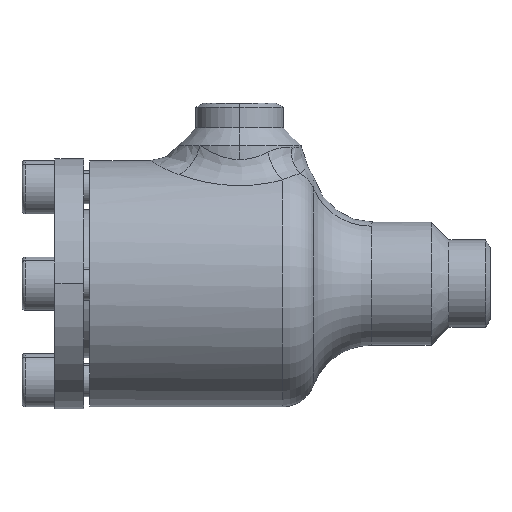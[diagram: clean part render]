
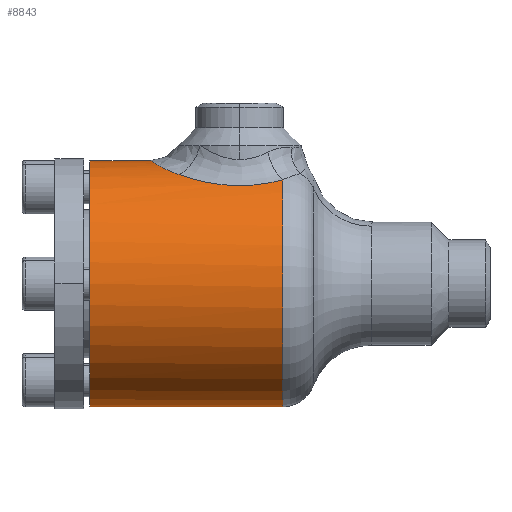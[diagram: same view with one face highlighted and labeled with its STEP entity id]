
A CAD part, left-side view. The second image highlights one B-rep face of the part: STEP entity #8843.
In plain terms, the highlighted cylindrical face has radius 30 mm (diameter 60 mm), a partial arc.
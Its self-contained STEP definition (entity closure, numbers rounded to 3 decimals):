
#235 = VERTEX_POINT ( 'NONE', #5533 ) ;
#1103 = VERTEX_POINT ( 'NONE', #6805 ) ;
#1304 = EDGE_CURVE ( 'NONE', #5345, #1103, #9675, .T. ) ;
#1637 = ORIENTED_EDGE ( 'NONE', *, *, #1304, .T. ) ;
#2572 = ORIENTED_EDGE ( 'NONE', *, *, #4884, .F. ) ;
#2688 = VERTEX_POINT ( 'NONE', #4984 ) ;
#4350 = CIRCLE ( 'NONE', #4351, 30. ) ;
#4351 = AXIS2_PLACEMENT_3D ( 'NONE', #4352, #4353, #4354 ) ;
#4352 = CARTESIAN_POINT ( 'NONE',  ( 0., 0., 0. ) ) ;
#4353 = DIRECTION ( 'NONE',  ( 0., 1., 0. ) ) ;
#4354 = DIRECTION ( 'NONE',  ( 0., 0., 1. ) ) ;
#4884 = EDGE_CURVE ( 'NONE', #9738, #235, #6260, .T. ) ;
#4984 = CARTESIAN_POINT ( 'NONE',  ( 0., 0., 30. ) ) ;
#5300 = EDGE_CURVE ( 'NONE', #11689, #2688, #6395, .T. ) ;
#5345 = VERTEX_POINT ( 'NONE', #9883 ) ;
#5357 = EDGE_CURVE ( 'NONE', #9738, #5345, #11694, .T. ) ;
#5370 = ORIENTED_EDGE ( 'NONE', *, *, #5357, .T. ) ;
#5384 = ORIENTED_EDGE ( 'NONE', *, *, #5300, .T. ) ;
#5410 = EDGE_CURVE ( 'NONE', #1103, #11689, #6240, .T. ) ;
#5424 = ORIENTED_EDGE ( 'NONE', *, *, #5410, .T. ) ;
#5533 = CARTESIAN_POINT ( 'NONE',  ( 0., 0., -30. ) ) ;
#6219 = FACE_OUTER_BOUND ( 'NONE', #8728, .T. ) ;
#6220 = CYLINDRICAL_SURFACE ( 'NONE', #6221, 30. ) ;
#6221 = AXIS2_PLACEMENT_3D ( 'NONE', #6222, #6223, #6224 ) ;
#6222 = CARTESIAN_POINT ( 'NONE',  ( 0., -55., 0. ) ) ;
#6223 = DIRECTION ( 'NONE',  ( 0., 1., 0. ) ) ;
#6224 = DIRECTION ( 'NONE',  ( 0., 0., 1. ) ) ;
#6240 = B_SPLINE_CURVE_WITH_KNOTS ( 'NONE', 3,
 ( #6241, #6242, #6243, #6244, #6245, #6246, #6247, #6249, #6250, #6251, #6252, #6253, #6254, #6255, #6256, #6257, #6258, #6259 ),
 .UNSPECIFIED., .F., .F.,
 ( 4, 2, 2, 2, 2, 2, 2, 2, 4 ),
 ( 0., 0.004, 0.005, 0.006, 0.008, 0.009, 0.01, 0.013, 0.017 ),
 .UNSPECIFIED. ) ;
#6241 = CARTESIAN_POINT ( 'NONE',  ( -13.938, -21.758, 26.566 ) ) ;
#6242 = CARTESIAN_POINT ( 'NONE',  ( -13.194, -20.629, 26.956 ) ) ;
#6243 = CARTESIAN_POINT ( 'NONE',  ( -12.333, -19.613, 27.369 ) ) ;
#6244 = CARTESIAN_POINT ( 'NONE',  ( -11.08, -18.494, 27.88 ) ) ;
#6245 = CARTESIAN_POINT ( 'NONE',  ( -10.82, -18.279, 27.982 ) ) ;
#6246 = CARTESIAN_POINT ( 'NONE',  ( -10.29, -17.868, 28.181 ) ) ;
#6247 = CARTESIAN_POINT ( 'NONE',  ( -10.019, -17.674, 28.279 ) ) ;
#6249 = CARTESIAN_POINT ( 'NONE',  ( -9.186, -17.118, 28.565 ) ) ;
#6250 = CARTESIAN_POINT ( 'NONE',  ( -8.606, -16.787, 28.746 ) ) ;
#6251 = CARTESIAN_POINT ( 'NONE',  ( -7.698, -16.347, 28.997 ) ) ;
#6252 = CARTESIAN_POINT ( 'NONE',  ( -7.389, -16.21, 29.078 ) ) ;
#6253 = CARTESIAN_POINT ( 'NONE',  ( -6.758, -15.954, 29.231 ) ) ;
#6254 = CARTESIAN_POINT ( 'NONE',  ( -6.435, -15.835, 29.304 ) ) ;
#6255 = CARTESIAN_POINT ( 'NONE',  ( -5.453, -15.509, 29.508 ) ) ;
#6256 = CARTESIAN_POINT ( 'NONE',  ( -4.79, -15.334, 29.623 ) ) ;
#6257 = CARTESIAN_POINT ( 'NONE',  ( -2.778, -14.919, 29.902 ) ) ;
#6258 = CARTESIAN_POINT ( 'NONE',  ( -1.404, -14.786, 30. ) ) ;
#6259 = CARTESIAN_POINT ( 'NONE',  ( 0., -14.786, 30. ) ) ;
#6260 = LINE ( 'NONE', #6261, #6262 ) ;
#6261 = CARTESIAN_POINT ( 'NONE',  ( 0., -55., -30. ) ) ;
#6262 = VECTOR ( 'NONE', #6263, 1000. ) ;
#6263 = DIRECTION ( 'NONE',  ( 0., 1., 0. ) ) ;
#6395 = LINE ( 'NONE', #6396, #6397 ) ;
#6396 = CARTESIAN_POINT ( 'NONE',  ( 0., -55., 30. ) ) ;
#6397 = VECTOR ( 'NONE', #6398, 1000. ) ;
#6398 = DIRECTION ( 'NONE',  ( 0., 1., 0. ) ) ;
#6805 = CARTESIAN_POINT ( 'NONE',  ( -13.938, -21.758, 26.566 ) ) ;
#7951 = CARTESIAN_POINT ( 'NONE',  ( 0., -14.786, 30. ) ) ;
#8728 = EDGE_LOOP ( 'NONE', ( #2572, #5370, #1637, #5424, #5384, #11051 ) ) ;
#8843 = ADVANCED_FACE ( 'NONE', ( #6219 ), #6220, .T. ) ;
#9675 = B_SPLINE_CURVE_WITH_KNOTS ( 'NONE', 3,
 ( #9676, #9677, #9678, #9679, #9680, #9681, #9682, #9683, #9684, #9686, #9687, #9688, #9689, #9690, #9691, #9692, #9693, #9694, #9695, #9696, #9697, #9698 ),
 .UNSPECIFIED., .F., .F.,
 ( 4, 2, 2, 2, 2, 2, 2, 2, 2, 2, 4 ),
 ( 0., 0.003, 0.007, 0.01, 0.013, 0.017, 0.018, 0.02, 0.023, 0.025, 0.027 ),
 .UNSPECIFIED. ) ;
#9676 = CARTESIAN_POINT ( 'NONE',  ( -16.155, -47., 25.279 ) ) ;
#9677 = CARTESIAN_POINT ( 'NONE',  ( -16.564, -45.992, 25.017 ) ) ;
#9678 = CARTESIAN_POINT ( 'NONE',  ( -16.908, -44.96, 24.784 ) ) ;
#9679 = CARTESIAN_POINT ( 'NONE',  ( -17.474, -42.852, 24.388 ) ) ;
#9680 = CARTESIAN_POINT ( 'NONE',  ( -17.696, -41.773, 24.226 ) ) ;
#9681 = CARTESIAN_POINT ( 'NONE',  ( -18.017, -39.572, 23.988 ) ) ;
#9682 = CARTESIAN_POINT ( 'NONE',  ( -18.112, -38.468, 23.915 ) ) ;
#9683 = CARTESIAN_POINT ( 'NONE',  ( -18.178, -36.254, 23.866 ) ) ;
#9684 = CARTESIAN_POINT ( 'NONE',  ( -18.148, -35.144, 23.889 ) ) ;
#9686 = CARTESIAN_POINT ( 'NONE',  ( -17.958, -32.918, 24.032 ) ) ;
#9687 = CARTESIAN_POINT ( 'NONE',  ( -17.8, -31.823, 24.15 ) ) ;
#9688 = CARTESIAN_POINT ( 'NONE',  ( -17.471, -30.208, 24.388 ) ) ;
#9689 = CARTESIAN_POINT ( 'NONE',  ( -17.345, -29.674, 24.478 ) ) ;
#9690 = CARTESIAN_POINT ( 'NONE',  ( -17.063, -28.615, 24.675 ) ) ;
#9691 = CARTESIAN_POINT ( 'NONE',  ( -16.906, -28.088, 24.784 ) ) ;
#9692 = CARTESIAN_POINT ( 'NONE',  ( -16.389, -26.533, 25.131 ) ) ;
#9693 = CARTESIAN_POINT ( 'NONE',  ( -15.985, -25.531, 25.392 ) ) ;
#9694 = CARTESIAN_POINT ( 'NONE',  ( -15.288, -24.078, 25.814 ) ) ;
#9695 = CARTESIAN_POINT ( 'NONE',  ( -15.041, -23.601, 25.959 ) ) ;
#9696 = CARTESIAN_POINT ( 'NONE',  ( -14.513, -22.666, 26.258 ) ) ;
#9697 = CARTESIAN_POINT ( 'NONE',  ( -14.232, -22.205, 26.411 ) ) ;
#9698 = CARTESIAN_POINT ( 'NONE',  ( -13.938, -21.758, 26.566 ) ) ;
#9738 = VERTEX_POINT ( 'NONE', #9870 ) ;
#9870 = CARTESIAN_POINT ( 'NONE',  ( 0., -47., -30. ) ) ;
#9883 = CARTESIAN_POINT ( 'NONE',  ( -16.155, -47., 25.279 ) ) ;
#10746 = EDGE_CURVE ( 'NONE', #235, #2688, #4350, .T. ) ;
#11051 = ORIENTED_EDGE ( 'NONE', *, *, #10746, .F. ) ;
#11689 = VERTEX_POINT ( 'NONE', #7951 ) ;
#11694 = CIRCLE ( 'NONE', #11695, 30. ) ;
#11695 = AXIS2_PLACEMENT_3D ( 'NONE', #11696, #11697, #11698 ) ;
#11696 = CARTESIAN_POINT ( 'NONE',  ( 0., -47., 0. ) ) ;
#11697 = DIRECTION ( 'NONE',  ( 0., 1., 0. ) ) ;
#11698 = DIRECTION ( 'NONE',  ( 0., 0., 1. ) ) ;
